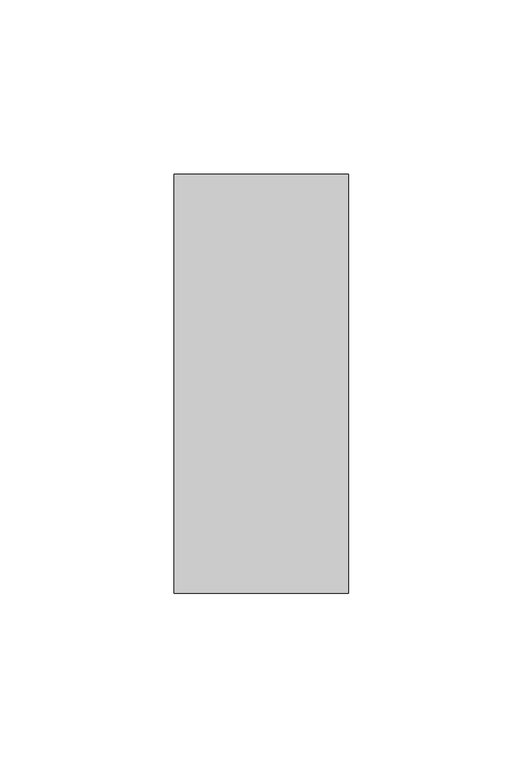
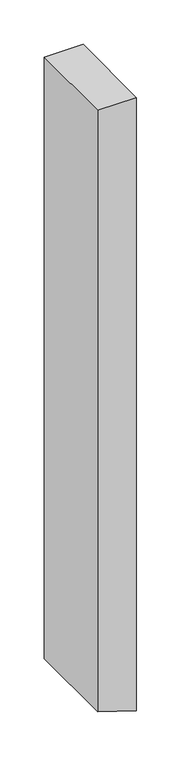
"""IFC4 building model written with IfcOpenShell, lengths in millimetres: member geometry, Прямоугольный импост : 50х120 мм."""

from ifc_helpers import new_model, si_unit, frame, origin, place, context, project, spatial, polyline, outline, extrude, source, transform, mapped, element, save


def member_55b47cd8(model_context):
    return source(origin(), model_context, "Body", "SweptSolid", [
        extrude(outline(polyline([(0.0, 0.0), (0.0, -50.0), (-824.9901168, -50.0), (-841.2361016, 0.0), (0.0, 0.0)])), frame((0.0, -60.0, 0.0), z_axis=(0.0, 1.0, 0.0), x_axis=(0.0, 0.0, 1.0)), (0.0, 0.0, 1.0), 120.0),
    ])


if __name__ == "__main__":
    model = new_model("IFC4")
    model_context = context("Model", 3, world=origin())
    ifc_project = project(units=[si_unit("LENGTHUNIT", "METRE", prefix="MILLI")], contexts=[model_context])
    site = spatial("IfcSite", under=ifc_project)
    building = spatial("IfcBuilding", under=site)
    placement = place(None, origin())
    member_shape = member_55b47cd8(model_context)
    element("IfcMember", 1, ObjectType="Прямоугольный импост : 50х120 мм", at=placement, inside=building, context=model_context, shape_type="MappedRepresentation", body=[
        mapped(member_shape, transform((0.0, 0.0, 0.0), x_axis=(1.0, 0.0, 0.0), y_axis=(0.0, 1.0, 0.0), z_axis=(0.0, 0.0, 1.0))),
    ])
    save(model, "model.ifc")
